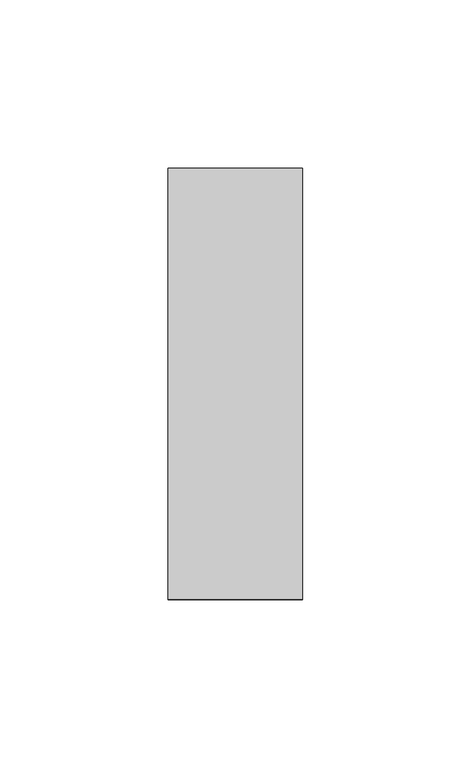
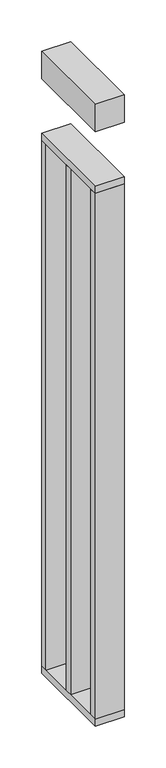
"""IFC4 building model written with IfcOpenShell, lengths in millimetres: railing geometry, Vertikale Stäbe mit Handlauf."""

import ifcopenshell
import ifcopenshell.guid

model = None  # the IFC model being written
_history = None  # IfcOwnerHistory: only IFC2X3 demands one
_inside = {}  # id of a spatial element -> (the spatial element, [elements in it])
_under = {}  # id of a project, library or spatial element -> (it, [spatial elements below it])
_declared = {}  # id of a project -> (the project, [libraries it declares])
_typed = {}  # id of a type object -> (the type object, [elements of that type])
_made_of = {}  # id of a material, layer set ... -> (it, [elements and type objects made of it])


def new_model(schema):
    """Start an empty IFC model of exactly this schema.

    Asked for "IFC4X3", IfcOpenShell would pick the latest addendum, in which some entities
    have other attributes; the version numbers below select the first issue.
    IFC2X3 requires an IfcOwnerHistory on every rooted entity: one is made here for all.
    """
    global model, _history
    if schema == "IFC4X3":
        model = ifcopenshell.file(schema_version=(4, 3, 0, 0))
    else:
        model = ifcopenshell.file(schema=schema)
    _inside.clear()
    _under.clear()
    _declared.clear()
    _typed.clear()
    _made_of.clear()
    _history = None
    if model.schema == "IFC2X3":
        org = make("IfcOrganization", Name="unknown")
        user = make(
            "IfcPersonAndOrganization",
            ThePerson=make("IfcPerson", FamilyName="unknown"),
            TheOrganization=org,
        )
        app = make(
            "IfcApplication",
            ApplicationDeveloper=org,
            Version="unknown",
            ApplicationFullName="unknown",
            ApplicationIdentifier="unknown",
        )
        _history = make(
            "IfcOwnerHistory",
            OwningUser=user,
            OwningApplication=app,
            ChangeAction="ADDED",
            CreationDate=0,
        )
    return model


def make(cls, **values):
    """One entity of the class cls with the attributes given. An attribute that is None is left unset."""
    return model.create_entity(
        cls, **{name: value for name, value in values.items() if value is not None}
    )


def rooted(cls, **values):
    """An entity with a GlobalId (a new one), such as an element, a storey or a relation."""
    return make(cls, GlobalId=ifcopenshell.guid.new(), OwnerHistory=_history, **values)


def si_unit(unit_type, name, prefix=None):
    """IfcSIUnit, for example si_unit("LENGTHUNIT", "METRE", prefix="MILLI")."""
    return make("IfcSIUnit", UnitType=unit_type, Prefix=prefix, Name=name)


def assignment(units):
    """IfcUnitAssignment: the units of a project."""
    return None if units is None else make("IfcUnitAssignment", Units=units)


def point(xyz):
    """IfcCartesianPoint."""
    return None if xyz is None else make("IfcCartesianPoint", Coordinates=xyz)


def direction(xyz):
    """IfcDirection."""
    return None if xyz is None else make("IfcDirection", DirectionRatios=xyz)


def frame(location, z_axis=None, x_axis=None):
    """IfcAxis2Placement3D, a coordinate frame: its origin and axes. An axis left out is left unset."""
    return make(
        "IfcAxis2Placement3D",
        Location=point(location),
        Axis=direction(z_axis),
        RefDirection=direction(x_axis),
    )


def origin():
    """The frame at (0, 0, 0) with its axes left unset."""
    return frame((0.0, 0.0, 0.0))


def place(relative_to, where):
    """IfcLocalPlacement: puts the frame where relative to a parent placement (None: the world)."""
    return make(
        "IfcLocalPlacement", PlacementRelTo=relative_to, RelativePlacement=where
    )


def context(
    kind, dimensions, precision=None, world=None, true_north=None, identifier=None
):
    """IfcGeometricRepresentationContext, for example the 3D "Model" context."""
    return make(
        "IfcGeometricRepresentationContext",
        ContextIdentifier=identifier,
        ContextType=kind,
        CoordinateSpaceDimension=dimensions,
        Precision=precision,
        WorldCoordinateSystem=world,
        TrueNorth=true_north,
    )


def project(units=None, contexts=None):
    """IfcProject with its units and contexts."""
    return rooted(
        "IfcProject",
        Name="project",
        RepresentationContexts=contexts,
        UnitsInContext=assignment(units),
    )


def spatial(cls, under=None, at=None, **own):
    """A site, building, storey or space (cls), placed at a placement, below another one or the project."""
    s = rooted(cls, ObjectPlacement=at, **own)
    if under is not None:
        _under.setdefault(under.id(), (under, []))[1].append(s)
    return s


def polyline(points):
    """IfcPolyline through the points."""
    return make("IfcPolyline", Points=[point(p) for p in points])


def outline(outer, holes=None, kind="AREA"):
    """IfcArbitraryClosedProfileDef: a profile drawn as a closed curve; with holes, ...WithVoids."""
    if holes is None:
        return make("IfcArbitraryClosedProfileDef", ProfileType=kind, OuterCurve=outer)
    return make(
        "IfcArbitraryProfileDefWithVoids",
        ProfileType=kind,
        OuterCurve=outer,
        InnerCurves=holes,
    )


def extrude(swept, where, along, depth):
    """IfcExtrudedAreaSolid: the profile swept, set in the frame where, extruded along a direction by depth."""
    return make(
        "IfcExtrudedAreaSolid",
        SweptArea=swept,
        Position=where,
        ExtrudedDirection=direction(along),
        Depth=depth,
    )


def shape(context_of_items, identifier, shape_type, items):
    """IfcShapeRepresentation: the items that make up one representation, for example the "Body"."""
    return make(
        "IfcShapeRepresentation",
        ContextOfItems=context_of_items,
        RepresentationIdentifier=identifier,
        RepresentationType=shape_type,
        Items=items,
    )


def source(mapping_origin, context_of_items, identifier, shape_type, items):
    """IfcRepresentationMap: a shape defined once, which mapped items show again and again."""
    return make(
        "IfcRepresentationMap",
        MappingOrigin=mapping_origin,
        MappedRepresentation=shape(context_of_items, identifier, shape_type, items),
    )


def transform(
    local_origin,
    x_axis=None,
    y_axis=None,
    z_axis=None,
    scale=None,
    scale2=None,
    scale3=None,
    uniform=True,
):
    """IfcCartesianTransformationOperator3D, or its non-uniform kind. x_axis, y_axis, z_axis: its Axis1, 2, 3."""
    if uniform:
        return make(
            "IfcCartesianTransformationOperator3D",
            Axis1=direction(x_axis),
            Axis2=direction(y_axis),
            LocalOrigin=point(local_origin),
            Scale=scale,
            Axis3=direction(z_axis),
        )
    return make(
        "IfcCartesianTransformationOperator3DnonUniform",
        Axis1=direction(x_axis),
        Axis2=direction(y_axis),
        LocalOrigin=point(local_origin),
        Scale=scale,
        Axis3=direction(z_axis),
        Scale2=scale2,
        Scale3=scale3,
    )


def mapped(mapping_source, mapping_target):
    """IfcMappedItem: shows the shape of a source again, moved by a transform."""
    return make(
        "IfcMappedItem", MappingSource=mapping_source, MappingTarget=mapping_target
    )


def made_of(thing, what):
    """Note that an element or type object is made of a material, layer set ...; save() writes the relation."""
    if what is not None:
        _made_of.setdefault(what.id(), (what, []))[1].append(thing)
    return thing


def element(
    cls,
    number,
    at=None,
    inside=None,
    cuts=None,
    type_object=None,
    material=None,
    context=None,
    identifier="Body",
    shape_type=None,
    held_by="IfcProductDefinitionShape",
    body=None,
    shapes=None,
    **own,
):
    """One element of the class cls, such as IfcWall. Its Tag is "e" and its number.

    at: its placement. inside: the storey or other place that contains it. cuts: it is an
    opening in that element (IfcRelVoidsElement). A single representation is given by context,
    identifier, shape_type and body (its items); several are given by shapes. held_by: the class
    of the entity that holds the representations. save() writes the other relations.
    """
    e = rooted(cls, Tag="e%d" % number, ObjectPlacement=at, **own)
    if body is not None:
        shapes = [shape(context, identifier, shape_type, body)]
    if shapes is not None:
        e.Representation = make(held_by, Representations=shapes)
    if inside is not None:
        _inside.setdefault(inside.id(), (inside, []))[1].append(e)
    if cuts is not None:
        rooted(
            "IfcRelVoidsElement", RelatingBuildingElement=cuts, RelatedOpeningElement=e
        )
    if type_object is not None:
        _typed.setdefault(type_object.id(), (type_object, []))[1].append(e)
    return made_of(e, material)


def aggregate(whole, parts):
    """IfcRelAggregates: a whole, such as a stair, and the parts it consists of."""
    return rooted("IfcRelAggregates", RelatingObject=whole, RelatedObjects=parts)


def save(model, path):
    """Write the relations noted so far, then the file.

    IfcRelAggregates (storeys below a building ...), IfcRelContainedInSpatialStructure (elements
    in a storey), IfcRelDefinesByType, IfcRelAssociatesMaterial and IfcRelDeclares: one each for
    every whole, place, type object, material and project.
    """
    for whole, parts in _under.values():
        aggregate(whole, parts)
    for where, things in _inside.values():
        rooted(
            "IfcRelContainedInSpatialStructure",
            RelatedElements=things,
            RelatingStructure=where,
        )
    for kind, things in _typed.values():
        rooted("IfcRelDefinesByType", RelatedObjects=things, RelatingType=kind)
    for what, things in _made_of.values():
        rooted("IfcRelAssociatesMaterial", RelatedObjects=things, RelatingMaterial=what)
    for by, libraries in _declared.values():
        rooted("IfcRelDeclares", RelatingContext=by, RelatedDefinitions=libraries)
    model.write(path)


def railing_46543788(model_context):
    return source(origin(), model_context, "Body", "SweptSolid", [
        extrude(outline(polyline([(2230.4, 1361.9329238), (2190.4, 1361.9329238), (2190.4, 1490.0), (2230.4, 1490.0), (2230.4, 1361.9329238)])), frame((0.0, 0.0, 4538.125), z_axis=(0.0, 0.0, 1.0), x_axis=(1.0, 0.0, 0.0)), (0.0, 0.0, 1.0), 40.0),
        extrude(outline(polyline([(2230.4, 1361.9329238), (2190.4, 1361.9329238), (2190.4, 1490.0), (2230.4, 1490.0), (2230.4, 1361.9329238)])), frame((0.0, 0.0, 4448.125), z_axis=(0.0, 0.0, 1.0), x_axis=(1.0, 0.0, 0.0)), (0.0, 0.0, 1.0), 10.0),
        extrude(outline(polyline([(2230.4, 1361.9329238), (2190.4, 1361.9329238), (2190.4, 1490.0), (2230.4, 1490.0), (2230.4, 1361.9329238)])), frame((0.0, 0.0, 3668.125), z_axis=(0.0, 0.0, 1.0), x_axis=(1.0, 0.0, 0.0)), (0.0, 0.0, 1.0), 10.0),
        extrude(outline(polyline([(2190.4, 1420.9664619), (2190.4, 1430.9664619), (2230.4, 1430.9664619), (2230.4, 1420.9664619), (2190.4, 1420.9664619)])), frame((0.0, 0.0, 3678.125), z_axis=(0.0, 0.0, 1.0), x_axis=(1.0, 0.0, 0.0)), (0.0, 0.0, 1.0), 770.0),
        extrude(outline(polyline([(2190.4, 1480.0), (2190.4, 1490.0), (2230.4, 1490.0), (2230.4, 1480.0), (2190.4, 1480.0)])), frame((0.0, 0.0, 3678.125), z_axis=(0.0, 0.0, 1.0), x_axis=(1.0, 0.0, 0.0)), (0.0, 0.0, 1.0), 770.0),
        extrude(outline(polyline([(2190.4, 1361.9329238), (2190.4, 1371.9329238), (2230.4, 1371.9329238), (2230.4, 1361.9329238), (2190.4, 1361.9329238)])), frame((0.0, 0.0, 3678.125), z_axis=(0.0, 0.0, 1.0), x_axis=(1.0, 0.0, 0.0)), (0.0, 0.0, 1.0), 770.0),
    ])


if __name__ == "__main__":
    model = new_model("IFC4")
    model_context = context("Model", 3, world=origin())
    ifc_project = project(units=[si_unit("LENGTHUNIT", "METRE", prefix="MILLI")], contexts=[model_context])
    site = spatial("IfcSite", under=ifc_project)
    building = spatial("IfcBuilding", under=site)
    placement = place(None, origin())
    railing_shape = railing_46543788(model_context)
    element("IfcRailing", 1, ObjectType="Vertikale Stäbe mit Handlauf", at=placement, inside=building, context=model_context, shape_type="MappedRepresentation", body=[
        mapped(railing_shape, transform((0.0, 0.0, 0.0), x_axis=(1.0, 0.0, 0.0), y_axis=(0.0, 1.0, 0.0), z_axis=(0.0, 0.0, 1.0))),
    ])
    save(model, "model.ifc")
